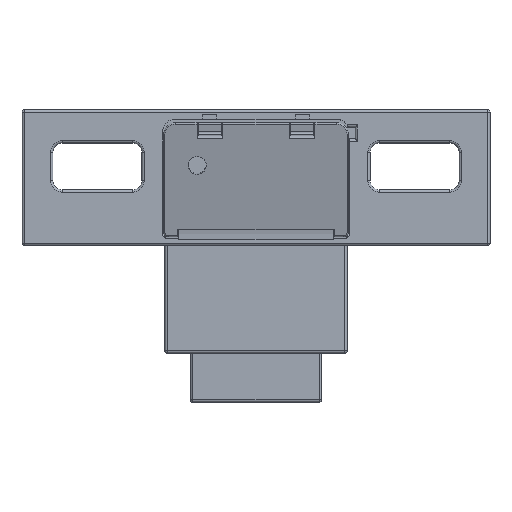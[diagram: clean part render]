
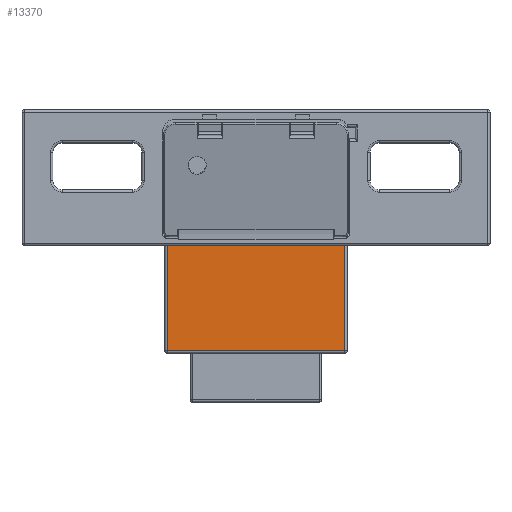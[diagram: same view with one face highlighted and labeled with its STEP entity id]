
A CAD part, top view. The second image highlights one B-rep face of the part: STEP entity #13370.
In plain terms, the highlighted planar face has unit normal (0, 0, 1).
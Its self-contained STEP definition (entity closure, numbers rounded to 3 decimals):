
#10123=CARTESIAN_POINT('Vertex',(-38.,129.219,14.5)) ;
#10126=CARTESIAN_POINT('Line Origine',(0.,129.219,14.5)) ;
#10130=CARTESIAN_POINT('Vertex',(38.,129.219,14.5)) ;
#11976=CARTESIAN_POINT('Line Origine',(38.,106.219,14.5)) ;
#11980=CARTESIAN_POINT('Vertex',(38.,84.219,14.5)) ;
#12059=CARTESIAN_POINT('Line Origine',(-38.,106.219,14.5)) ;
#12063=CARTESIAN_POINT('Vertex',(-38.,84.219,14.5)) ;
#13354=CARTESIAN_POINT('Axis2P3D Location',(0.,0.,14.5)) ;
#13359=CARTESIAN_POINT('Line Origine',(0.,84.219,14.5)) ;
#10127=DIRECTION('Vector Direction',(1.,0.,0.)) ;
#11977=DIRECTION('Vector Direction',(0.,-1.,0.)) ;
#12060=DIRECTION('Vector Direction',(0.,1.,0.)) ;
#13355=DIRECTION('Axis2P3D Direction',(0.,0.,1.)) ;
#13356=DIRECTION('Axis2P3D XDirection',(1.,0.,0.)) ;
#13360=DIRECTION('Vector Direction',(1.,0.,0.)) ;
#13357=AXIS2_PLACEMENT_3D('Plane Axis2P3D',#13354,#13355,#13356) ;
#13365=ORIENTED_EDGE('',*,*,#11982,.F.) ;
#13366=ORIENTED_EDGE('',*,*,#10132,.T.) ;
#13367=ORIENTED_EDGE('',*,*,#12065,.T.) ;
#13368=ORIENTED_EDGE('',*,*,#13363,.T.) ;
#10128=VECTOR('Line Direction',#10127,1.) ;
#11978=VECTOR('Line Direction',#11977,1.) ;
#12061=VECTOR('Line Direction',#12060,1.) ;
#13361=VECTOR('Line Direction',#13360,1.) ;
#13370=ADVANCED_FACE('PartBody',(#13369),#13358,.T.) ;
#10132=EDGE_CURVE('',#10131,#10124,#10129,.F.) ;
#11982=EDGE_CURVE('',#10131,#11981,#11979,.T.) ;
#12065=EDGE_CURVE('',#10124,#12064,#12062,.F.) ;
#13363=EDGE_CURVE('',#12064,#11981,#13362,.T.) ;
#13364=EDGE_LOOP('',(#13365,#13366,#13367,#13368)) ;
#13369=FACE_OUTER_BOUND('',#13364,.T.) ;
#10129=LINE('Line',#10126,#10128) ;
#11979=LINE('Line',#11976,#11978) ;
#12062=LINE('Line',#12059,#12061) ;
#13362=LINE('Line',#13359,#13361) ;
#13358=PLANE('Plane',#13357) ;
#10124=VERTEX_POINT('',#10123) ;
#10131=VERTEX_POINT('',#10130) ;
#11981=VERTEX_POINT('',#11980) ;
#12064=VERTEX_POINT('',#12063) ;
